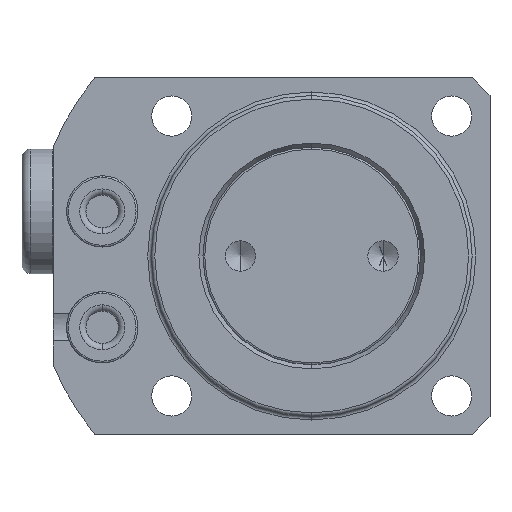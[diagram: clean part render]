
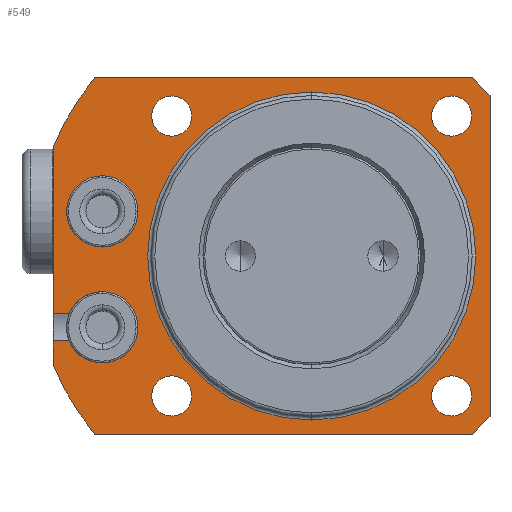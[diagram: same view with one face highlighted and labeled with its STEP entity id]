
A CAD part, front view. The second image highlights one B-rep face of the part: STEP entity #549.
In plain terms, the highlighted planar face has unit normal (0, -1, 0).
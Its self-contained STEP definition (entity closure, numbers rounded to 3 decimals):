
#267=PLANE('',#3702);
#323=FACE_BOUND('',#1042,.T.);
#324=FACE_BOUND('',#1043,.T.);
#325=FACE_BOUND('',#1044,.T.);
#326=FACE_BOUND('',#1045,.T.);
#327=FACE_BOUND('',#1046,.T.);
#328=FACE_BOUND('',#1047,.T.);
#329=FACE_BOUND('',#1048,.T.);
#549=ADVANCED_FACE('',(#323,#324,#325,#326,#327,#328,#329),#267,.T.);
#1042=EDGE_LOOP('',(#1729,#1730,#1731,#1732,#1733,#1734,#1735,#1736,#1737,
#1738,#1739,#1740,#1741,#1742));
#1043=EDGE_LOOP('',(#1743,#1744));
#1044=EDGE_LOOP('',(#1745,#1746));
#1045=EDGE_LOOP('',(#1747,#1748));
#1046=EDGE_LOOP('',(#1749,#1750));
#1047=EDGE_LOOP('',(#1751,#1752));
#1048=EDGE_LOOP('',(#1753,#1754));
#1319=LINE('',#5868,#1478);
#1320=LINE('',#5871,#1479);
#1321=LINE('',#5873,#1480);
#1322=LINE('',#5877,#1481);
#1323=LINE('',#5879,#1482);
#1324=LINE('',#5881,#1483);
#1325=LINE('',#5883,#1484);
#1326=LINE('',#5885,#1485);
#1327=LINE('',#5889,#1486);
#1478=VECTOR('',#4365,1.);
#1479=VECTOR('',#4368,1.);
#1480=VECTOR('',#4369,1.);
#1481=VECTOR('',#4372,1.);
#1482=VECTOR('',#4373,1.);
#1483=VECTOR('',#4374,1.);
#1484=VECTOR('',#4375,1.);
#1485=VECTOR('',#4376,1.);
#1486=VECTOR('',#4379,1.);
#1729=ORIENTED_EDGE('',*,*,#2970,.F.);
#1730=ORIENTED_EDGE('',*,*,#2849,.F.);
#1731=ORIENTED_EDGE('',*,*,#2971,.F.);
#1732=ORIENTED_EDGE('',*,*,#2851,.F.);
#1733=ORIENTED_EDGE('',*,*,#2972,.F.);
#1734=ORIENTED_EDGE('',*,*,#2973,.T.);
#1735=ORIENTED_EDGE('',*,*,#2974,.T.);
#1736=ORIENTED_EDGE('',*,*,#2975,.T.);
#1737=ORIENTED_EDGE('',*,*,#2976,.T.);
#1738=ORIENTED_EDGE('',*,*,#2977,.T.);
#1739=ORIENTED_EDGE('',*,*,#2978,.T.);
#1740=ORIENTED_EDGE('',*,*,#2979,.T.);
#1741=ORIENTED_EDGE('',*,*,#2980,.T.);
#1742=ORIENTED_EDGE('',*,*,#2981,.T.);
#1743=ORIENTED_EDGE('',*,*,#2982,.F.);
#1744=ORIENTED_EDGE('',*,*,#2845,.F.);
#1745=ORIENTED_EDGE('',*,*,#2873,.F.);
#1746=ORIENTED_EDGE('',*,*,#2983,.F.);
#1747=ORIENTED_EDGE('',*,*,#2881,.F.);
#1748=ORIENTED_EDGE('',*,*,#2984,.F.);
#1749=ORIENTED_EDGE('',*,*,#2889,.F.);
#1750=ORIENTED_EDGE('',*,*,#2985,.F.);
#1751=ORIENTED_EDGE('',*,*,#2897,.F.);
#1752=ORIENTED_EDGE('',*,*,#2986,.F.);
#1753=ORIENTED_EDGE('',*,*,#2987,.F.);
#1754=ORIENTED_EDGE('',*,*,#2947,.F.);
#2549=VERTEX_POINT('',#5315);
#2550=VERTEX_POINT('',#5317);
#2553=VERTEX_POINT('',#5324);
#2554=VERTEX_POINT('',#5326);
#2555=VERTEX_POINT('',#5331);
#2556=VERTEX_POINT('',#5333);
#2575=VERTEX_POINT('',#5471);
#2576=VERTEX_POINT('',#5472);
#2583=VERTEX_POINT('',#5519);
#2584=VERTEX_POINT('',#5520);
#2591=VERTEX_POINT('',#5567);
#2592=VERTEX_POINT('',#5568);
#2599=VERTEX_POINT('',#5615);
#2600=VERTEX_POINT('',#5616);
#2639=VERTEX_POINT('',#5747);
#2640=VERTEX_POINT('',#5749);
#2655=VERTEX_POINT('',#5869);
#2656=VERTEX_POINT('',#5872);
#2657=VERTEX_POINT('',#5874);
#2658=VERTEX_POINT('',#5876);
#2659=VERTEX_POINT('',#5878);
#2660=VERTEX_POINT('',#5880);
#2661=VERTEX_POINT('',#5882);
#2662=VERTEX_POINT('',#5884);
#2663=VERTEX_POINT('',#5886);
#2664=VERTEX_POINT('',#5888);
#2845=EDGE_CURVE('',#2549,#2550,#3316,.T.);
#2849=EDGE_CURVE('',#2553,#2554,#3318,.T.);
#2851=EDGE_CURVE('',#2555,#2556,#3319,.T.);
#2873=EDGE_CURVE('',#2575,#2576,#3325,.T.);
#2881=EDGE_CURVE('',#2583,#2584,#3328,.T.);
#2889=EDGE_CURVE('',#2591,#2592,#3331,.T.);
#2897=EDGE_CURVE('',#2599,#2600,#3334,.T.);
#2947=EDGE_CURVE('',#2639,#2640,#3365,.T.);
#2970=EDGE_CURVE('',#2554,#2655,#1319,.T.);
#2971=EDGE_CURVE('',#2556,#2553,#3375,.T.);
#2972=EDGE_CURVE('',#2656,#2555,#1320,.T.);
#2973=EDGE_CURVE('',#2656,#2657,#1321,.T.);
#2974=EDGE_CURVE('',#2657,#2658,#3376,.T.);
#2975=EDGE_CURVE('',#2658,#2659,#1322,.T.);
#2976=EDGE_CURVE('',#2659,#2660,#1323,.T.);
#2977=EDGE_CURVE('',#2660,#2661,#1324,.T.);
#2978=EDGE_CURVE('',#2661,#2662,#1325,.T.);
#2979=EDGE_CURVE('',#2662,#2663,#1326,.T.);
#2980=EDGE_CURVE('',#2663,#2664,#3377,.T.);
#2981=EDGE_CURVE('',#2664,#2655,#1327,.T.);
#2982=EDGE_CURVE('',#2550,#2549,#3378,.T.);
#2983=EDGE_CURVE('',#2576,#2575,#3379,.T.);
#2984=EDGE_CURVE('',#2584,#2583,#3380,.T.);
#2985=EDGE_CURVE('',#2592,#2591,#3381,.T.);
#2986=EDGE_CURVE('',#2600,#2599,#3382,.T.);
#2987=EDGE_CURVE('',#2640,#2639,#3383,.T.);
#3316=CIRCLE('',#3602,4.);
#3318=CIRCLE('',#3605,4.);
#3319=CIRCLE('',#3606,4.);
#3325=CIRCLE('',#3619,2.25);
#3328=CIRCLE('',#3624,2.25);
#3331=CIRCLE('',#3629,2.25);
#3334=CIRCLE('',#3634,2.25);
#3365=CIRCLE('',#3678,18.4);
#3375=CIRCLE('',#3693,4.);
#3376=CIRCLE('',#3694,31.5);
#3377=CIRCLE('',#3695,31.5);
#3378=CIRCLE('',#3696,4.);
#3379=CIRCLE('',#3697,2.25);
#3380=CIRCLE('',#3698,2.25);
#3381=CIRCLE('',#3699,2.25);
#3382=CIRCLE('',#3700,2.25);
#3383=CIRCLE('',#3701,18.4);
#3602=AXIS2_PLACEMENT_3D('',#5316,#4132,#4133);
#3605=AXIS2_PLACEMENT_3D('',#5325,#4140,#4141);
#3606=AXIS2_PLACEMENT_3D('',#5332,#4142,#4143);
#3619=AXIS2_PLACEMENT_3D('',#5470,#4181,#4182);
#3624=AXIS2_PLACEMENT_3D('',#5518,#4195,#4196);
#3629=AXIS2_PLACEMENT_3D('',#5566,#4209,#4210);
#3634=AXIS2_PLACEMENT_3D('',#5614,#4223,#4224);
#3678=AXIS2_PLACEMENT_3D('',#5748,#4329,#4330);
#3693=AXIS2_PLACEMENT_3D('',#5870,#4366,#4367);
#3694=AXIS2_PLACEMENT_3D('',#5875,#4370,#4371);
#3695=AXIS2_PLACEMENT_3D('',#5887,#4377,#4378);
#3696=AXIS2_PLACEMENT_3D('',#5890,#4380,#4381);
#3697=AXIS2_PLACEMENT_3D('',#5891,#4382,#4383);
#3698=AXIS2_PLACEMENT_3D('',#5892,#4384,#4385);
#3699=AXIS2_PLACEMENT_3D('',#5893,#4386,#4387);
#3700=AXIS2_PLACEMENT_3D('',#5894,#4388,#4389);
#3701=AXIS2_PLACEMENT_3D('',#5895,#4390,#4391);
#3702=AXIS2_PLACEMENT_3D('',#5896,#4392,#4393);
#4132=DIRECTION('',(0.,-1.,0.));
#4133=DIRECTION('',(0.,0.,-1.));
#4140=DIRECTION('',(0.,-1.,0.));
#4141=DIRECTION('',(0.,0.,-1.));
#4142=DIRECTION('',(0.,-1.,0.));
#4143=DIRECTION('',(0.,0.,-1.));
#4181=DIRECTION('',(0.,-1.,0.));
#4182=DIRECTION('',(0.,0.,-1.));
#4195=DIRECTION('',(0.,-1.,0.));
#4196=DIRECTION('',(0.,0.,-1.));
#4209=DIRECTION('',(0.,-1.,0.));
#4210=DIRECTION('',(0.,0.,-1.));
#4223=DIRECTION('',(0.,-1.,0.));
#4224=DIRECTION('',(0.,0.,-1.));
#4329=DIRECTION('',(0.,-1.,0.));
#4330=DIRECTION('',(0.,0.,-1.));
#4365=DIRECTION('',(-1.,0.,0.));
#4366=DIRECTION('',(0.,-1.,0.));
#4367=DIRECTION('',(0.,0.,-1.));
#4368=DIRECTION('',(1.,0.,0.));
#4369=DIRECTION('',(0.,0.,-1.));
#4370=DIRECTION('',(0.,-1.,0.));
#4371=DIRECTION('',(0.,0.,-1.));
#4372=DIRECTION('',(1.,0.,0.));
#4373=DIRECTION('',(0.707,0.,0.707));
#4374=DIRECTION('',(0.,0.,1.));
#4375=DIRECTION('',(-0.707,0.,0.707));
#4376=DIRECTION('',(-1.,0.,0.));
#4377=DIRECTION('',(0.,-1.,0.));
#4378=DIRECTION('',(0.,0.,-1.));
#4379=DIRECTION('',(0.,0.,-1.));
#4380=DIRECTION('',(0.,-1.,0.));
#4381=DIRECTION('',(0.,0.,-1.));
#4382=DIRECTION('',(0.,-1.,0.));
#4383=DIRECTION('',(0.,0.,-1.));
#4384=DIRECTION('',(0.,-1.,0.));
#4385=DIRECTION('',(0.,0.,-1.));
#4386=DIRECTION('',(0.,-1.,0.));
#4387=DIRECTION('',(0.,0.,-1.));
#4388=DIRECTION('',(0.,-1.,0.));
#4389=DIRECTION('',(0.,0.,-1.));
#4390=DIRECTION('',(0.,-1.,0.));
#4391=DIRECTION('',(0.,0.,-1.));
#4392=DIRECTION('',(0.,-1.,0.));
#4393=DIRECTION('',(0.,0.,1.));
#5315=CARTESIAN_POINT('',(-23.5,27.628,9.));
#5316=CARTESIAN_POINT('',(-23.5,27.628,5.));
#5317=CARTESIAN_POINT('',(-23.5,27.628,1.));
#5324=CARTESIAN_POINT('',(-23.5,27.628,-4.));
#5325=CARTESIAN_POINT('',(-23.5,27.628,-8.));
#5326=CARTESIAN_POINT('',(-27.2,27.628,-6.48));
#5331=CARTESIAN_POINT('',(-27.2,27.628,-9.52));
#5332=CARTESIAN_POINT('',(-23.5,27.628,-8.));
#5333=CARTESIAN_POINT('',(-23.5,27.628,-12.));
#5470=CARTESIAN_POINT('',(-15.7,27.628,-15.7));
#5471=CARTESIAN_POINT('',(-15.7,27.628,-13.45));
#5472=CARTESIAN_POINT('',(-15.7,27.628,-17.95));
#5518=CARTESIAN_POINT('',(-15.7,27.628,15.7));
#5519=CARTESIAN_POINT('',(-15.7,27.628,17.95));
#5520=CARTESIAN_POINT('',(-15.7,27.628,13.45));
#5566=CARTESIAN_POINT('',(15.7,27.628,15.7));
#5567=CARTESIAN_POINT('',(15.7,27.628,17.95));
#5568=CARTESIAN_POINT('',(15.7,27.628,13.45));
#5614=CARTESIAN_POINT('',(15.7,27.628,-15.7));
#5615=CARTESIAN_POINT('',(15.7,27.628,-13.45));
#5616=CARTESIAN_POINT('',(15.7,27.628,-17.95));
#5747=CARTESIAN_POINT('',(0.,27.628,18.4));
#5748=CARTESIAN_POINT('',(0.,27.628,0.));
#5749=CARTESIAN_POINT('',(0.,27.628,-18.4));
#5868=CARTESIAN_POINT('',(-24.,27.628,-6.48));
#5869=CARTESIAN_POINT('',(-29.,27.628,-6.48));
#5870=CARTESIAN_POINT('',(-23.5,27.628,-8.));
#5871=CARTESIAN_POINT('',(-24.,27.628,-9.52));
#5872=CARTESIAN_POINT('',(-29.,27.628,-9.52));
#5873=CARTESIAN_POINT('',(-29.,27.628,0.));
#5874=CARTESIAN_POINT('',(-29.,27.628,-12.298));
#5875=CARTESIAN_POINT('',(0.,27.628,0.));
#5876=CARTESIAN_POINT('',(-24.336,27.628,-20.));
#5877=CARTESIAN_POINT('',(31.5,27.628,-20.));
#5878=CARTESIAN_POINT('',(18.,27.628,-20.));
#5879=CARTESIAN_POINT('',(34.75,27.628,-3.25));
#5880=CARTESIAN_POINT('',(20.,27.628,-18.));
#5881=CARTESIAN_POINT('',(20.,27.628,0.));
#5882=CARTESIAN_POINT('',(20.,27.628,18.));
#5883=CARTESIAN_POINT('',(34.75,27.628,3.25));
#5884=CARTESIAN_POINT('',(18.,27.628,20.));
#5885=CARTESIAN_POINT('',(31.5,27.628,20.));
#5886=CARTESIAN_POINT('',(-24.336,27.628,20.));
#5887=CARTESIAN_POINT('',(0.,27.628,0.));
#5888=CARTESIAN_POINT('',(-29.,27.628,12.298));
#5889=CARTESIAN_POINT('',(-29.,27.628,0.));
#5890=CARTESIAN_POINT('',(-23.5,27.628,5.));
#5891=CARTESIAN_POINT('',(-15.7,27.628,-15.7));
#5892=CARTESIAN_POINT('',(-15.7,27.628,15.7));
#5893=CARTESIAN_POINT('',(15.7,27.628,15.7));
#5894=CARTESIAN_POINT('',(15.7,27.628,-15.7));
#5895=CARTESIAN_POINT('',(0.,27.628,0.));
#5896=CARTESIAN_POINT('',(31.5,27.628,0.));
